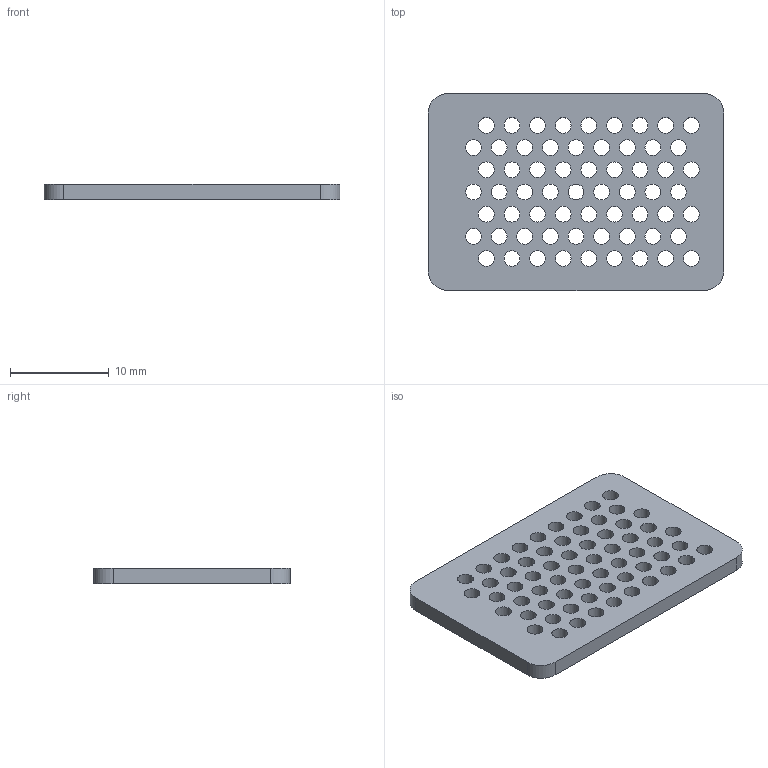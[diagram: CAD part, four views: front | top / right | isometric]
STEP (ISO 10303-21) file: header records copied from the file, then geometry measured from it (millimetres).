
FILE_DESCRIPTION(('Open CASCADE Model'),'2;1');
FILE_NAME('Open CASCADE Shape Model','2026-09-06T11:29:00',('Author'),( 'Open CASCADE'),'Open CASCADE STEP processor 7.7','Open CASCADE 7.7' ,'Unknown');
FILE_SCHEMA(('AUTOMOTIVE_DESIGN { 1 0 10303 214 1 1 1 1 }'));
Length unit declared in the file: millimetre
Products named in the file (1): Open CASCADE STEP translator 7.7 6
Bounding box: 30 x 20 x 1.6 mm (x, y, z)
Volume: 751.8 mm3; surface area: 1601 mm2
Topology: 1 solids, 1 shells, 73 faces, 213 edges, 142 vertices
Faces by surface type: cylinder 67, plane 6
Full cylindrical faces by diameter (mm): 1.6 x63
Entity records: 5733 total; most frequent: CARTESIAN_POINT 1257, DIRECTION 854, ORIENTED_EDGE 426, PCURVE 426, DEFINITIONAL_REPRESENTATION 426, LINE 371, VECTOR 371, EDGE_CURVE 213
